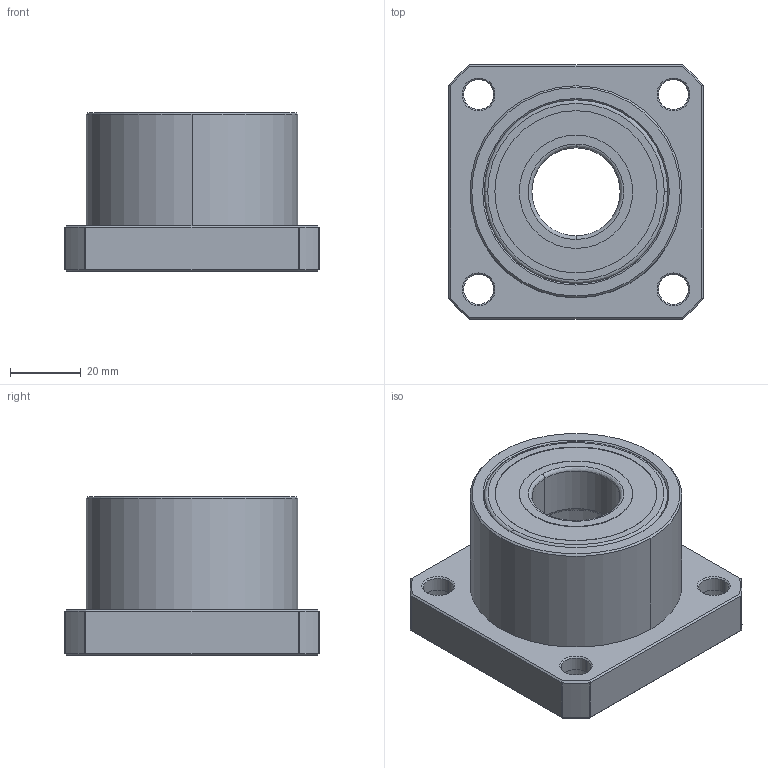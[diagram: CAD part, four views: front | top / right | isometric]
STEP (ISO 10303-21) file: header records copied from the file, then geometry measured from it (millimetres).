
FILE_DESCRIPTION (( 'STEP AP203' ), '1' );
FILE_NAME ('SBD25.STEP', '2009-05-27T08:12:34', ( '冠犁泅' ), ( '俺惯何' ), 'SwSTEP 2.0', 'SolidWorks 2007', '' );
FILE_SCHEMA (( 'CONFIG_CONTROL_DESIGN' ));
Length unit declared in the file: millimetre
Products named in the file (3): SBD25_HOUSING_ル遽; SBD25; 6205zz_ル遽
Assembly tree (3 placements, depth 2):
  SBD25
    SBD25_HOUSING_ル遽
    6205zz_ル遽  x2
Bounding box: 72 x 72 x 45 mm (x, y, z)
Volume: 63023.5 mm3; surface area: 53622.2 mm2
Topology: 1 solids, 31 shells, 243 faces, 602 edges, 348 vertices
Faces by surface type: cylinder 84, bspline 76, plane 49, cone 34
Entity records: 7104 total; most frequent: CARTESIAN_POINT 3110, DIRECTION 790, ORIENTED_EDGE 728, EDGE_CURVE 372, AXIS2_PLACEMENT_3D 332, VERTEX_POINT 248, EDGE_LOOP 196, CIRCLE 196
